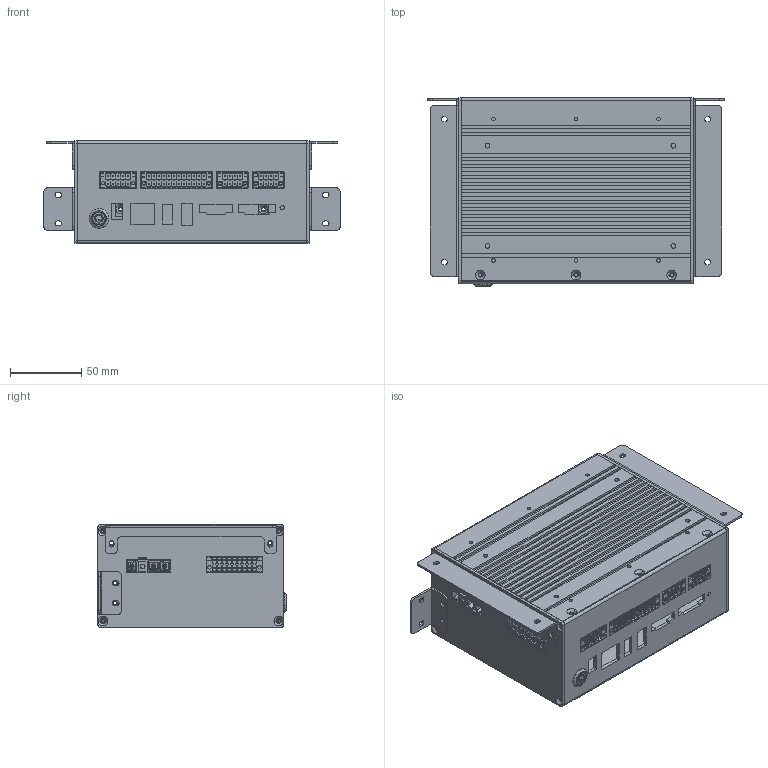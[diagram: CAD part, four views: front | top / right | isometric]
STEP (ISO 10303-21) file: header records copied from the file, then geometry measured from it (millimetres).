
FILE_DESCRIPTION (( 'STEP AP214' ), '1' );
FILE_NAME ('外形数模_ERB1C600MET-Mini控制柜-含外接固定钣金_V1.0_20260309.STEP', '2026-03-09T07:01:17', ( '' ), ( '' ), 'SwSTEP 2.0', 'SolidWorks 2020', '' );
FILE_SCHEMA (( 'AUTOMOTIVE_DESIGN' ));
Length unit declared in the file: millimetre
Products named in the file (14): NA60401717_CS_MINI褲极耜啣2-E; NA60401631_CS_MINI________1.STEP; NA60401629_CS-mini__________.STEP; NA60401341_____________-mini.STEP; CS_Mini____.STEP; 外形数模_ERB1C600MET-Mini控制柜-含外接固定钣金_V1.0_20260309; _______CSMini.STEP; -CS MINI IO BOARD_V1_1-021702.step.STEP; NA60700485_CS-mini__________.STEP; _________9EDGKS-7.62-L2-03P-1Y-02Z(H).stp.STEP; NA60700486_CS-mini__________.STEP; NA60401630_CS-mini__________.STEP; 外形数模_CS_Mini控制柜-含外接固定钣金_V2.0_20250728.STEP; NA60401342_____________-mini.STEP
Assembly tree (16 placements, depth 4):
  外形数模_ERB1C600MET-Mini控制柜-含外接固定钣金_V1.0_20260309
    外形数模_CS_Mini控制柜-含外接固定钣金_V2.0_20250728.STEP
      CS_Mini____.STEP
        NA60401629_CS-mini__________.STEP
        NA60401630_CS-mini__________.STEP
        NA60401631_CS_MINI________1.STEP
        NA60700485_CS-mini__________.STEP
        NA60700486_CS-mini__________.STEP  x2
      _______CSMini.STEP
        -CS MINI IO BOARD_V1_1-021702.step.STEP
        _________9EDGKS-7.62-L2-03P-1Y-02Z(H).stp.STEP
      NA60401341_____________-mini.STEP  x2
      NA60401342_____________-mini.STEP  x2
    NA60401717_CS_MINI褲极耜啣2-E
Bounding box: 207.2 x 131.6 x 72 mm (x, y, z)
Volume: 312024.8 mm3; surface area: 266745 mm2
Topology: 13 solids, 60 shells, 5337 faces, 14775 edges, 9707 vertices
Faces by surface type: plane 3536, cylinder 1328, bspline 239, cone 234
Entity records: 201354 total; most frequent: CARTESIAN_POINT 87071, ORIENTED_EDGE 28784, EDGE_CURVE 14492, DIRECTION 14252, B_SPLINE_CURVE_WITH_KNOTS 10889, VERTEX_POINT 9539, AXIS2_PLACEMENT_3D 5704, EDGE_LOOP 5679
